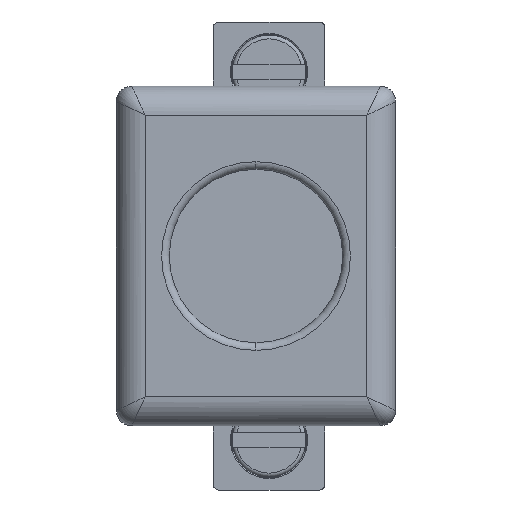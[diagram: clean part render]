
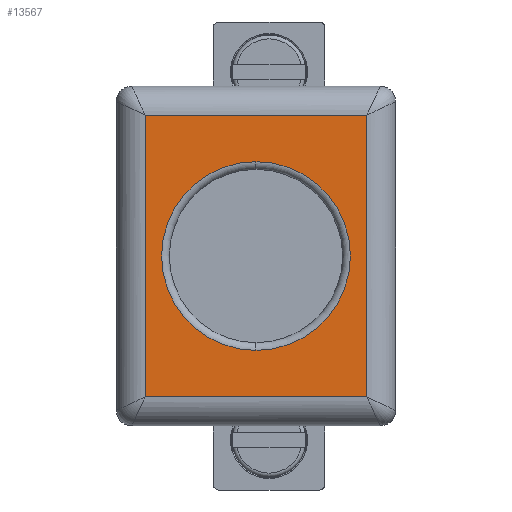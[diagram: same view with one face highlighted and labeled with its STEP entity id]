
A CAD part, front view. The second image highlights one B-rep face of the part: STEP entity #13567.
In plain terms, the highlighted planar face has unit normal (0, -1, 0).
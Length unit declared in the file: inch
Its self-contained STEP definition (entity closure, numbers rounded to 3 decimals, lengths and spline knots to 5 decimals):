
#456=CARTESIAN_POINT('',(0.1998,-0.97835,
-0.01244));
#468=DIRECTION('',(0.,0.,-1.));
#469=VECTOR('',#468,0.57598);
#470=CARTESIAN_POINT('',(0.1998,-0.97835,
0.56354));
#471=LINE('',#470,#469);
#1396=DIRECTION('',(1.,0.,0.));
#1397=VECTOR('',#1396,0.45276);
#1398=CARTESIAN_POINT('',(-0.25295,-0.97835,
0.56354));
#1399=LINE('',#1398,#1397);
#1416=CARTESIAN_POINT('',(-0.02657,-0.97835,
0.27555));
#1417=DIRECTION('',(0.,1.,0.));
#1418=DIRECTION('',(0.,0.,-1.));
#1419=AXIS2_PLACEMENT_3D('',#1416,#1417,#1418);
#1421=CARTESIAN_POINT('',(-0.02657,-0.97835,
0.27555));
#1422=DIRECTION('',(0.,1.,0.));
#1423=DIRECTION('',(0.,0.,1.));
#1424=AXIS2_PLACEMENT_3D('',#1421,#1422,#1423);
#1430=CARTESIAN_POINT('',(-0.25295,-0.97835,
-0.01244));
#1442=DIRECTION('',(-1.,0.,0.));
#1443=VECTOR('',#1442,0.45276);
#1444=CARTESIAN_POINT('',(0.1998,-0.97835,
-0.01244));
#1445=LINE('',#1444,#1443);
#1474=DIRECTION('',(0.,0.,1.));
#1475=VECTOR('',#1474,0.57598);
#1476=CARTESIAN_POINT('',(-0.25295,-0.97835,
-0.01244));
#1477=LINE('',#1476,#1475);
#10544=CARTESIAN_POINT('',(-0.25295,-0.97835,
0.56354));
#10545=CARTESIAN_POINT('',(0.1998,-0.97835,
0.56354));
#10546=VERTEX_POINT('',#10544);
#10547=VERTEX_POINT('',#10545);
#10590=VERTEX_POINT('',#456);
#10597=CARTESIAN_POINT('',(-0.02657,-0.97835,
0.46846));
#10598=VERTEX_POINT('',#10597);
#10599=CARTESIAN_POINT('',(-0.02657,-0.97835,
0.08264));
#10600=VERTEX_POINT('',#10599);
#10783=VERTEX_POINT('',#1430);
#13548=CARTESIAN_POINT('',(0.25886,-0.97835,
0.16138));
#13549=DIRECTION('',(0.,-1.,0.));
#13550=DIRECTION('',(0.,0.,-1.));
#13551=AXIS2_PLACEMENT_3D('',#13548,#13549,#13550);
#13552=PLANE('',#13551);
#13553=ORIENTED_EDGE('',*,*,#11366,.T.);
#13555=ORIENTED_EDGE('',*,*,#13554,.T.);
#13557=ORIENTED_EDGE('',*,*,#13556,.T.);
#13558=ORIENTED_EDGE('',*,*,#13540,.T.);
#13559=EDGE_LOOP('',(#13553,#13555,#13557,#13558));
#13560=FACE_OUTER_BOUND('',#13559,.F.);
#13562=ORIENTED_EDGE('',*,*,#13561,.F.);
#13564=ORIENTED_EDGE('',*,*,#13563,.F.);
#13565=EDGE_LOOP('',(#13562,#13564));
#13566=FACE_BOUND('',#13565,.F.);
#13567=ADVANCED_FACE('',(#13560,#13566),#13552,.T.);
#1420=CIRCLE('',#1419,0.19291);
#1425=CIRCLE('',#1424,0.19291);
#11366=EDGE_CURVE('',#10547,#10590,#471,.T.);
#13540=EDGE_CURVE('',#10546,#10547,#1399,.T.);
#13554=EDGE_CURVE('',#10590,#10783,#1445,.T.);
#13556=EDGE_CURVE('',#10783,#10546,#1477,.T.);
#13561=EDGE_CURVE('',#10600,#10598,#1420,.T.);
#13563=EDGE_CURVE('',#10598,#10600,#1425,.T.);
